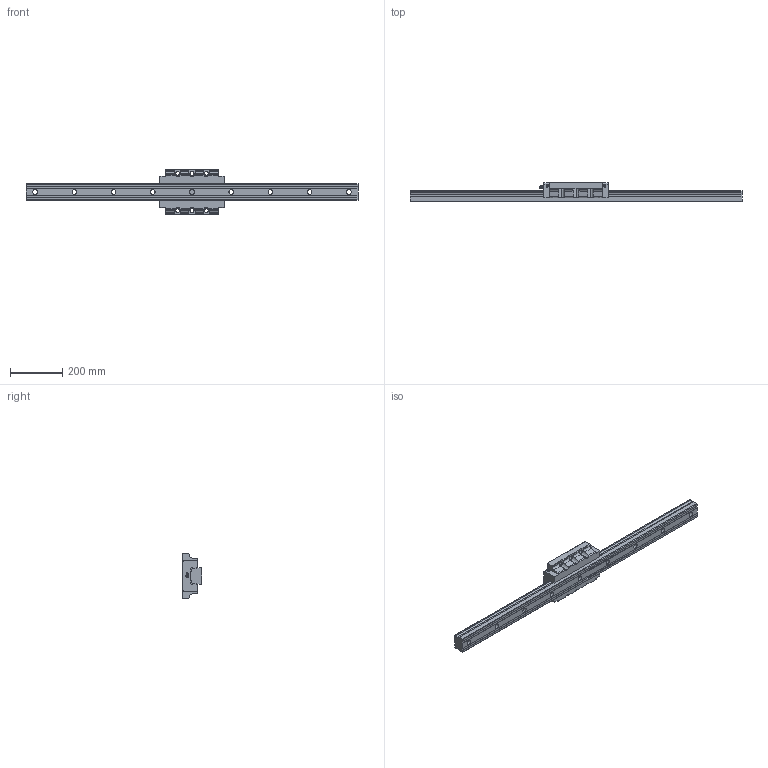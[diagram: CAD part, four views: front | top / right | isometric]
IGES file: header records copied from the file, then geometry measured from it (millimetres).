
Start section: Data from Parasolid IGES Translator 26.0.171, Copyright(c) 2006 Siemens PLM Software. All Rights Reserved.
Global section: file name: SVR65LC1SS-1270L_G35_0_B-PT18_512_0_0_0_1.igs; native system: By Siemens PLM Incorporated; preprocessor: XPlus GENERIC/IGES 26.0.171; author: Noname; organization: Noname; date: 20240517.072347; units: millimetre
Bounding box: 1270 x 75 x 170 mm (x, y, z)
Surface area: 452986.9 mm2 (no closed solid volume)
Topology: 0 solids, 0 shells, 260 faces, 1395 edges, 1334 vertices
Faces by surface type: extrusion 142, revolution 118
